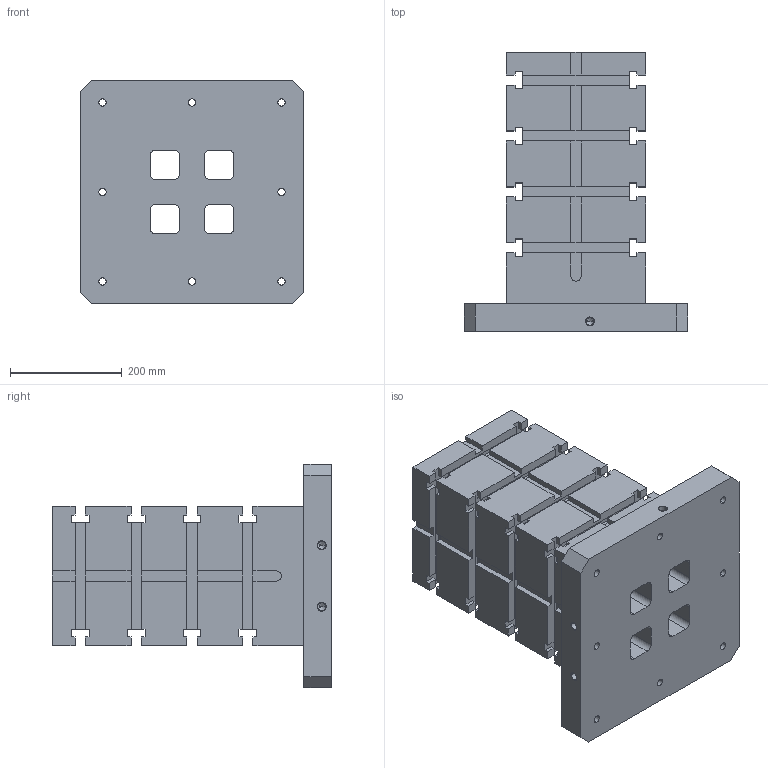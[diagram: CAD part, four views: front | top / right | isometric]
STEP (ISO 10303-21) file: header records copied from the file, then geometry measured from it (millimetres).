
FILE_DESCRIPTION((''),'2;1');
FILE_NAME('FG_WH_TOMB_SQT18NP001','2026-05-28T11:29:50',('Admin'),(''),'CREO PARAMETRIC BY PTC INC, 2025010','CREO PARAMETRIC BY PTC INC, 2025010','');
FILE_SCHEMA(('CONFIG_CONTROL_DESIGN'));
Length unit declared in the file: millimetre
Products named in the file (1): FG_WH_TOMB_SQT18NP001
Bounding box: 400 x 500 x 400 mm (x, y, z)
Volume: 21153486.4 mm3; surface area: 1588417.6 mm2
Topology: 1 solids, 4 shells, 524 faces, 1488 edges, 989 vertices
Faces by surface type: plane 432, cylinder 86, cone 6
Entity records: 16898 total; most frequent: CARTESIAN_POINT 2996, ORIENTED_EDGE 2952, DIRECTION 2710, EDGE_CURVE 1482, VECTOR 1304, LINE 1304, VERTEX_POINT 989, AXIS2_PLACEMENT_3D 703
